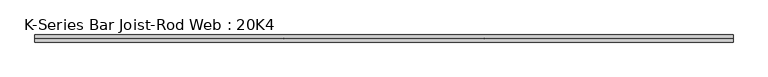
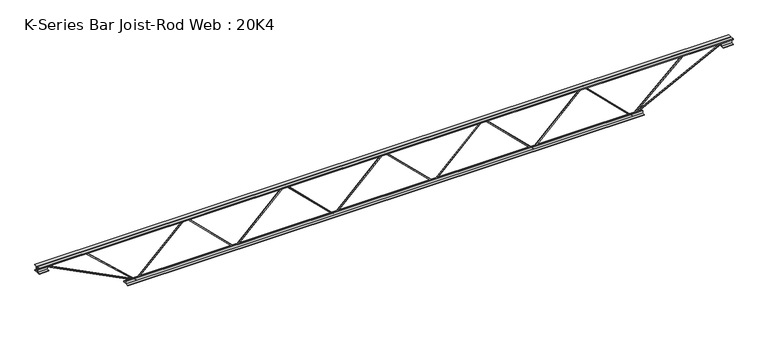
"""IFC4 building model written with IfcOpenShell, lengths in millimetres: beam geometry, K-Series Bar Joist-Rod Web : 20K4."""

from ifc_helpers import new_model, si_unit, frame, origin, place, context, project, spatial, polyline, outline, extrude, source, transform, mapped, element, save


def k_series_bar_joist_rod_web_20k4_d2b6970e(model_context):
    return source(origin(), model_context, "Body", "SweptSolid", [
        extrude(outline(polyline([(-242.8875, 511.01625), (-252.4125, 511.01625), (-252.4125, 516.1378623), (242.8875, 1020.8041123), (242.8875, 1023.2608877), (-252.4125, 1527.9271377), (-252.4125, 1533.04875), (-242.8875, 1533.04875), (-242.8875, 1531.8203623), (252.4125, 1027.1541123), (252.4125, 1016.9108877), (-242.8875, 512.2446377), (-242.8875, 511.01625)])), frame((0.0, -4.7625, 0.0), z_axis=(0.0, 1.0, 0.0), x_axis=(0.0, 0.0, 1.0)), (0.0, 0.0, 1.0), 9.525),
        extrude(outline(polyline([(-242.8875, -511.01625), (-252.4125, -511.01625), (-252.4125, -505.8946377), (242.8875, -1.2283877), (242.8875, 1.2283877), (-252.4125, 505.8946377), (-252.4125, 511.01625), (-242.8875, 511.01625), (-242.8875, 509.7878623), (252.4125, 5.1216123), (252.4125, -5.1216123), (-242.8875, -509.7878623), (-242.8875, -511.01625)])), frame((0.0, -4.7625, 0.0), z_axis=(0.0, 1.0, 0.0), x_axis=(0.0, 0.0, 1.0)), (0.0, 0.0, 1.0), 9.525),
        extrude(outline(polyline([(-242.8875, -1533.04875), (-252.4125, -1533.04875), (-252.4125, -1527.9271377), (242.8875, -1023.2608877), (242.8875, -1020.8041123), (-252.4125, -516.1378623), (-252.4125, -511.01625), (-242.8875, -511.01625), (-242.8875, -512.2446377), (252.4125, -1016.9108877), (252.4125, -1027.1541123), (-242.8875, -1531.8203623), (-242.8875, -1533.04875)])), frame((0.0, -4.7625, 0.0), z_axis=(0.0, 1.0, 0.0), x_axis=(0.0, 0.0, 1.0)), (0.0, 0.0, 1.0), 9.525),
        extrude(outline(polyline([(-242.8875, 1533.04875), (-252.4125, 1533.04875), (-252.4125, 1538.1703623), (242.8875, 2042.8366123), (242.8875, 2045.2933877), (-252.4125, 2549.9596377), (-252.4125, 2555.08125), (-242.8875, 2555.08125), (-242.8875, 2553.8528623), (252.4125, 2049.1866123), (252.4125, 2038.9433877), (-242.8875, 1534.2771377), (-242.8875, 1533.04875)])), frame((0.0, -4.7625, 0.0), z_axis=(0.0, 1.0, 0.0), x_axis=(0.0, 0.0, 1.0)), (0.0, 0.0, 1.0), 9.525),
        extrude(outline(polyline([(-242.8875, -2555.08125), (-252.4125, -2555.08125), (-252.4125, -2549.9596377), (242.8875, -2045.2933877), (242.8875, -2042.8366123), (-252.4125, -1538.1703623), (-252.4125, -1533.04875), (-242.8875, -1533.04875), (-242.8875, -1534.2771377), (252.4125, -2038.9433877), (252.4125, -2049.1866123), (-242.8875, -2553.8528623), (-242.8875, -2555.08125)])), frame((0.0, -4.7625, 0.0), z_axis=(0.0, 1.0, 0.0), x_axis=(0.0, 0.0, 1.0)), (0.0, 0.0, 1.0), 9.525),
        extrude(outline(polyline([(4.7625, 254.0), (36.5125, 254.0), (36.5125, 247.65), (11.1125, 247.65), (11.1125, 222.25), (4.7625, 222.25), (4.7625, 254.0)])), frame((-3571.08125, 0.0, 0.0), z_axis=(1.0, 0.0, 0.0), x_axis=(0.0, 1.0, 0.0)), (0.0, 0.0, 1.0), 7142.1625),
        extrude(outline(polyline([(-4.7625, 254.0), (-4.7625, 222.25), (-11.1125, 222.25), (-11.1125, 247.65), (-36.5125, 247.65), (-36.5125, 254.0), (-4.7625, 254.0)])), frame((-3571.08125, 0.0, 0.0), z_axis=(1.0, 0.0, 0.0), x_axis=(0.0, 1.0, 0.0)), (0.0, 0.0, 1.0), 7142.1625),
        extrude(outline(polyline([(-4.7625, 190.5), (-36.5125, 190.5), (-36.5125, 196.85), (-11.1125, 196.85), (-11.1125, 222.25), (-4.7625, 222.25), (-4.7625, 190.5)])), frame((-3571.08125, 0.0, 0.0), z_axis=(1.0, 0.0, 0.0), x_axis=(0.0, 1.0, 0.0)), (0.0, 0.0, 1.0), 101.6),
        extrude(outline(polyline([(36.5125, 190.5), (4.7625, 190.5), (4.7625, 222.25), (11.1125, 222.25), (11.1125, 196.85), (36.5125, 196.85), (36.5125, 190.5)])), frame((-3571.08125, 0.0, 0.0), z_axis=(1.0, 0.0, 0.0), x_axis=(0.0, 1.0, 0.0)), (0.0, 0.0, 1.0), 101.6),
        extrude(outline(polyline([(4.7625, 190.5), (4.7625, 222.25), (11.1125, 222.25), (11.1125, 196.85), (36.5125, 196.85), (36.5125, 190.5), (4.7625, 190.5)])), frame((3469.48125, 0.0, 0.0), z_axis=(1.0, 0.0, 0.0), x_axis=(0.0, 1.0, 0.0)), (0.0, 0.0, 1.0), 101.6),
        extrude(outline(polyline([(-4.7625, 190.5), (-36.5125, 190.5), (-36.5125, 196.85), (-11.1125, 196.85), (-11.1125, 222.25), (-4.7625, 222.25), (-4.7625, 190.5)])), frame((3469.48125, 0.0, 0.0), z_axis=(1.0, 0.0, 0.0), x_axis=(0.0, 1.0, 0.0)), (0.0, 0.0, 1.0), 101.6),
        extrude(outline(polyline([(4.7625, -254.0), (4.7625, -222.25), (11.1125, -222.25), (11.1125, -247.65), (36.5125, -247.65), (36.5125, -254.0), (4.7625, -254.0)])), frame((-2656.68125, 0.0, 0.0), z_axis=(1.0, 0.0, 0.0), x_axis=(0.0, 1.0, 0.0)), (0.0, 0.0, 1.0), 5313.3625),
        extrude(outline(polyline([(-4.7625, -254.0), (-36.5125, -254.0), (-36.5125, -247.65), (-11.1125, -247.65), (-11.1125, -222.25), (-4.7625, -222.25), (-4.7625, -254.0)])), frame((-2656.68125, 0.0, 0.0), z_axis=(1.0, 0.0, 0.0), x_axis=(0.0, 1.0, 0.0)), (0.0, 0.0, 1.0), 5313.3625),
        extrude(outline(polyline([(0.0, -9.525), (0.0, 0.0), (1028.0726482, 0.0), (1028.0726482, -9.525), (0.0, -9.525)])), frame((-3471.6580405, 4.7625, 218.0140834), z_axis=(0.4570688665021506, 0.0, 0.8894313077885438), x_axis=(0.8894313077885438, 0.0, -0.4570688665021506)), (0.0, 0.0, 1.0), 9.525),
        extrude(outline(polyline([(0.0, -9.525), (0.0, 0.0), (694.2215913, 0.0), (694.2215913, -9.525), (0.0, -9.525)])), frame((-3069.3211087, 4.7625, 218.7443256), z_axis=(0.6768732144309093, 0.0, 0.7360996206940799), x_axis=(0.7360996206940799, 0.0, -0.6768732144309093)), (0.0, 0.0, 1.0), 9.525),
        extrude(outline(polyline([(0.0, -9.525), (0.0, 0.0), (1028.0726482, 0.0), (1028.0726482, -9.525), (0.0, -9.525)])), frame((3471.6580405, -4.7625, 218.0140834), z_axis=(-0.45706886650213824, 0.0, 0.8894313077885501), x_axis=(-0.8894313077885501, 0.0, -0.45706886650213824)), (0.0, 0.0, 1.0), 9.525),
        extrude(outline(polyline([(0.0, -9.525), (0.0, 0.0), (694.2215913, 0.0), (694.2215913, -9.525), (0.0, -9.525)])), frame((3069.3211087, -4.7625, 218.7443256), z_axis=(-0.6768732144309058, 0.0, 0.7360996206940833), x_axis=(-0.7360996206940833, 0.0, -0.6768732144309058)), (0.0, 0.0, 1.0), 9.525),
    ])


if __name__ == "__main__":
    model = new_model("IFC4")
    model_context = context("Model", 3, world=origin())
    ifc_project = project(units=[si_unit("LENGTHUNIT", "METRE", prefix="MILLI")], contexts=[model_context])
    site = spatial("IfcSite", under=ifc_project)
    building = spatial("IfcBuilding", under=site)
    placement = place(None, origin())
    k_series_bar_joist_rod_web_20k4_shape = k_series_bar_joist_rod_web_20k4_d2b6970e(model_context)
    element("IfcBeam", 1, ObjectType="K-Series Bar Joist-Rod Web : 20K4", at=placement, inside=building, context=model_context, shape_type="MappedRepresentation", body=[
        mapped(k_series_bar_joist_rod_web_20k4_shape, transform((0.0, 0.0, 0.0), x_axis=(1.0, 0.0, 0.0), y_axis=(0.0, 1.0, 0.0), z_axis=(0.0, 0.0, 1.0))),
    ])
    save(model, "model.ifc")
